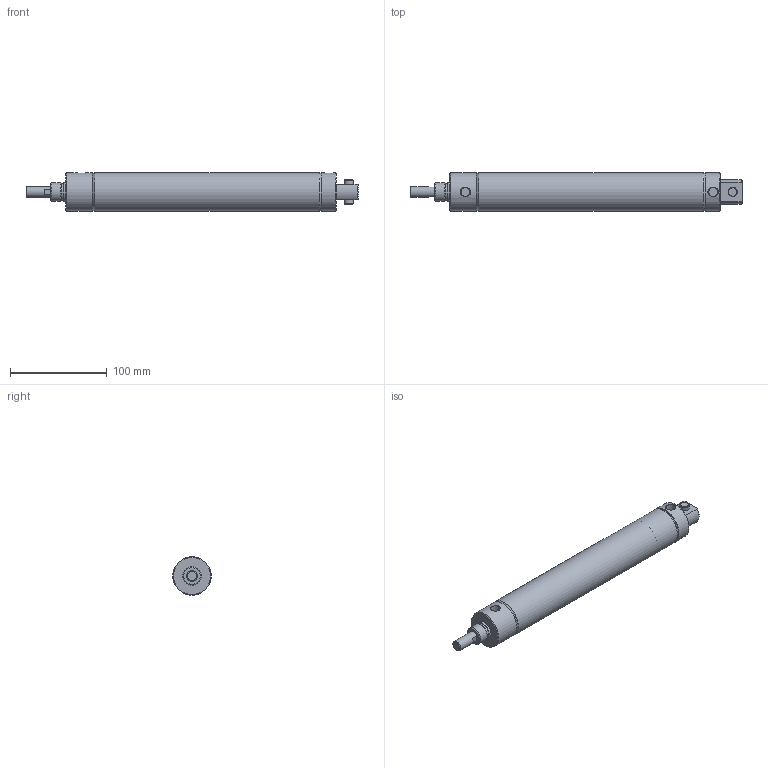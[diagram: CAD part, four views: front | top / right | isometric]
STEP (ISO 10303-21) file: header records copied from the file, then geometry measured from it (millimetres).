
FILE_DESCRIPTION( ( 'STEP AP214' ), '1' );
FILE_NAME( 'p:/temp/worker_476/temp/exporttempdir_84384_29_r5apE/format_0/1500D02-08A.stp', '2020-05-07T18:40:25', ( 'License CC BY-ND 4.0' ), ( 'CADENAS' ), ' ', 'PARTsolutions', ' ' );
FILE_SCHEMA( ( 'AUTOMOTIVE_DESIGN { 1 0 10303 214 1 1 1 1 }' ) );
Length unit declared in the file: inch
Products named in the file (3): 1500D02-08A; _1500D02-08A-0000A00A0b; _1500D02-08A-0000A00A0r
Assembly tree (2 placements, depth 2):
  1500D02-08A
    _1500D02-08A-0000A00A0b
    _1500D02-08A-0000A00A0r
Bounding box: 342.9 x 39.7 x 39.7 mm (x, y, z)
Volume: 147716.6 mm3; surface area: 87886.4 mm2
Topology: 2 solids, 2 shells, 55 faces, 99 edges, 63 vertices
Faces by surface type: plane 25, cylinder 15, cone 15
Full cylindrical faces by diameter (mm): 9.525 x2, 11.125 x3, 17.178 x1, 19.05 x2, 38.1 x2, 39.7 x3
Entity records: 1834 total; most frequent: CARTESIAN_POINT 348, DIRECTION 228, ORIENTED_EDGE 140, AXIS2_PLACEMENT_3D 106, EDGE_LOOP 96, EDGE_CURVE 70, FACE_OUTER_BOUND 68, VERTEX_POINT 60
